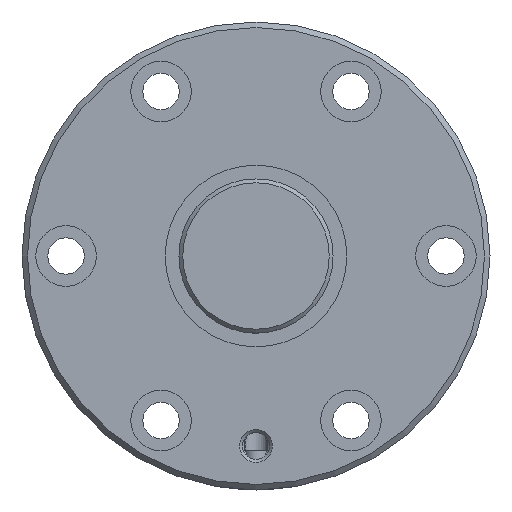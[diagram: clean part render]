
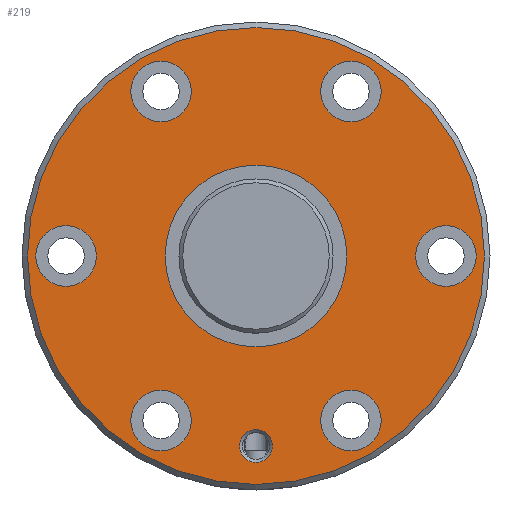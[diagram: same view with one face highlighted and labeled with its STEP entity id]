
A CAD part, left-side view. The second image highlights one B-rep face of the part: STEP entity #219.
In plain terms, the highlighted planar face has unit normal (-1, 0, 0).
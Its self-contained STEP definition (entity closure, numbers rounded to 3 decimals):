
#219 = ADVANCED_FACE( '', ( #390, #391, #392, #393, #394, #395, #396, #397, #398 ), #399, .T. );
#390 = FACE_BOUND( '', #629, .T. );
#391 = FACE_BOUND( '', #630, .T. );
#392 = FACE_BOUND( '', #631, .T. );
#393 = FACE_BOUND( '', #632, .T. );
#394 = FACE_BOUND( '', #633, .T. );
#395 = FACE_BOUND( '', #634, .T. );
#396 = FACE_BOUND( '', #635, .T. );
#397 = FACE_BOUND( '', #636, .T. );
#398 = FACE_OUTER_BOUND( '', #637, .T. );
#399 = PLANE( '', #638 );
#629 = EDGE_LOOP( '', ( #1059 ) );
#630 = EDGE_LOOP( '', ( #1060 ) );
#631 = EDGE_LOOP( '', ( #1061 ) );
#632 = EDGE_LOOP( '', ( #1062 ) );
#633 = EDGE_LOOP( '', ( #1063 ) );
#634 = EDGE_LOOP( '', ( #1064 ) );
#635 = EDGE_LOOP( '', ( #1065 ) );
#636 = EDGE_LOOP( '', ( #1066 ) );
#637 = EDGE_LOOP( '', ( #1067 ) );
#638 = AXIS2_PLACEMENT_3D( '', #1068, #1069, #1070 );
#1059 = ORIENTED_EDGE( '', *, *, #1342, .T. );
#1060 = ORIENTED_EDGE( '', *, *, #1343, .T. );
#1061 = ORIENTED_EDGE( '', *, *, #1265, .T. );
#1062 = ORIENTED_EDGE( '', *, *, #1341, .T. );
#1063 = ORIENTED_EDGE( '', *, *, #1344, .T. );
#1064 = ORIENTED_EDGE( '', *, *, #1345, .T. );
#1065 = ORIENTED_EDGE( '', *, *, #1346, .T. );
#1066 = ORIENTED_EDGE( '', *, *, #1347, .T. );
#1067 = ORIENTED_EDGE( '', *, *, #1348, .F. );
#1068 = CARTESIAN_POINT( '', ( 0., 41.5, 0. ) );
#1069 = DIRECTION( '', ( -1., 0., 0. ) );
#1070 = DIRECTION( '', ( 0., 0., 1. ) );
#1265 = EDGE_CURVE( '', #1419, #1419, #1420, .T. );
#1341 = EDGE_CURVE( '', #1549, #1549, #1550, .T. );
#1342 = EDGE_CURVE( '', #1551, #1551, #1552, .T. );
#1343 = EDGE_CURVE( '', #1553, #1553, #1554, .F. );
#1344 = EDGE_CURVE( '', #1555, #1555, #1556, .T. );
#1345 = EDGE_CURVE( '', #1557, #1557, #1558, .T. );
#1346 = EDGE_CURVE( '', #1559, #1559, #1560, .T. );
#1347 = EDGE_CURVE( '', #1561, #1561, #1562, .T. );
#1348 = EDGE_CURVE( '', #1563, #1563, #1564, .T. );
#1419 = VERTEX_POINT( '', #1766 );
#1420 = CIRCLE( '', #1767, 3. );
#1549 = VERTEX_POINT( '', #2140 );
#1550 = CIRCLE( '', #2141, 5.5 );
#1551 = VERTEX_POINT( '', #2142 );
#1552 = CIRCLE( '', #2143, 16.5 );
#1553 = VERTEX_POINT( '', #2144 );
#1554 = CIRCLE( '', #2145, 5.5 );
#1555 = VERTEX_POINT( '', #2146 );
#1556 = CIRCLE( '', #2147, 5.5 );
#1557 = VERTEX_POINT( '', #2148 );
#1558 = CIRCLE( '', #2149, 5.5 );
#1559 = VERTEX_POINT( '', #2150 );
#1560 = CIRCLE( '', #2151, 5.5 );
#1561 = VERTEX_POINT( '', #2152 );
#1562 = CIRCLE( '', #2153, 5.5 );
#1563 = VERTEX_POINT( '', #2154 );
#1564 = CIRCLE( '', #2155, 41.5 );
#1766 = CARTESIAN_POINT( '', ( 0., 0., -37.5 ) );
#1767 = AXIS2_PLACEMENT_3D( '', #2311, #2312, #2313 );
#2140 = CARTESIAN_POINT( '', ( 0., 17.25, 24.378 ) );
#2141 = AXIS2_PLACEMENT_3D( '', #2463, #2464, #2465 );
#2142 = CARTESIAN_POINT( '', ( 0., 0., -16.5 ) );
#2143 = AXIS2_PLACEMENT_3D( '', #2466, #2467, #2468 );
#2144 = CARTESIAN_POINT( '', ( 0., 34.5, 5.5 ) );
#2145 = AXIS2_PLACEMENT_3D( '', #2469, #2470, #2471 );
#2146 = CARTESIAN_POINT( '', ( 0., -17.25, -35.378 ) );
#2147 = AXIS2_PLACEMENT_3D( '', #2472, #2473, #2474 );
#2148 = CARTESIAN_POINT( '', ( 0., -17.25, 24.378 ) );
#2149 = AXIS2_PLACEMENT_3D( '', #2475, #2476, #2477 );
#2150 = CARTESIAN_POINT( '', ( 0., 17.25, -35.378 ) );
#2151 = AXIS2_PLACEMENT_3D( '', #2478, #2479, #2480 );
#2152 = CARTESIAN_POINT( '', ( 0., -34.5, -5.5 ) );
#2153 = AXIS2_PLACEMENT_3D( '', #2481, #2482, #2483 );
#2154 = CARTESIAN_POINT( '', ( 0., 0., -41.5 ) );
#2155 = AXIS2_PLACEMENT_3D( '', #2484, #2485, #2486 );
#2311 = CARTESIAN_POINT( '', ( 0., 0., -34.5 ) );
#2312 = DIRECTION( '', ( 1., 0., 0. ) );
#2313 = DIRECTION( '', ( 0., 0., -1. ) );
#2463 = CARTESIAN_POINT( '', ( 0., 17.25, 29.878 ) );
#2464 = DIRECTION( '', ( 1., 0., 0. ) );
#2465 = DIRECTION( '', ( 0., 0., -1. ) );
#2466 = CARTESIAN_POINT( '', ( 0., 0., 0. ) );
#2467 = DIRECTION( '', ( 1., 0., 0. ) );
#2468 = DIRECTION( '', ( 0., 0., -1. ) );
#2469 = CARTESIAN_POINT( '', ( 0., 34.5, 0. ) );
#2470 = DIRECTION( '', ( -1., 0., 0. ) );
#2471 = DIRECTION( '', ( 0., 0., 1. ) );
#2472 = CARTESIAN_POINT( '', ( 0., -17.25, -29.878 ) );
#2473 = DIRECTION( '', ( 1., 0., 0. ) );
#2474 = DIRECTION( '', ( 0., 0., -1. ) );
#2475 = CARTESIAN_POINT( '', ( 0., -17.25, 29.878 ) );
#2476 = DIRECTION( '', ( 1., 0., 0. ) );
#2477 = DIRECTION( '', ( 0., 0., -1. ) );
#2478 = CARTESIAN_POINT( '', ( 0., 17.25, -29.878 ) );
#2479 = DIRECTION( '', ( 1., 0., 0. ) );
#2480 = DIRECTION( '', ( 0., 0., -1. ) );
#2481 = CARTESIAN_POINT( '', ( 0., -34.5, 0. ) );
#2482 = DIRECTION( '', ( 1., 0., 0. ) );
#2483 = DIRECTION( '', ( 0., 0., -1. ) );
#2484 = CARTESIAN_POINT( '', ( 0., 0., 0. ) );
#2485 = DIRECTION( '', ( 1., 0., 0. ) );
#2486 = DIRECTION( '', ( 0., 0., -1. ) );
